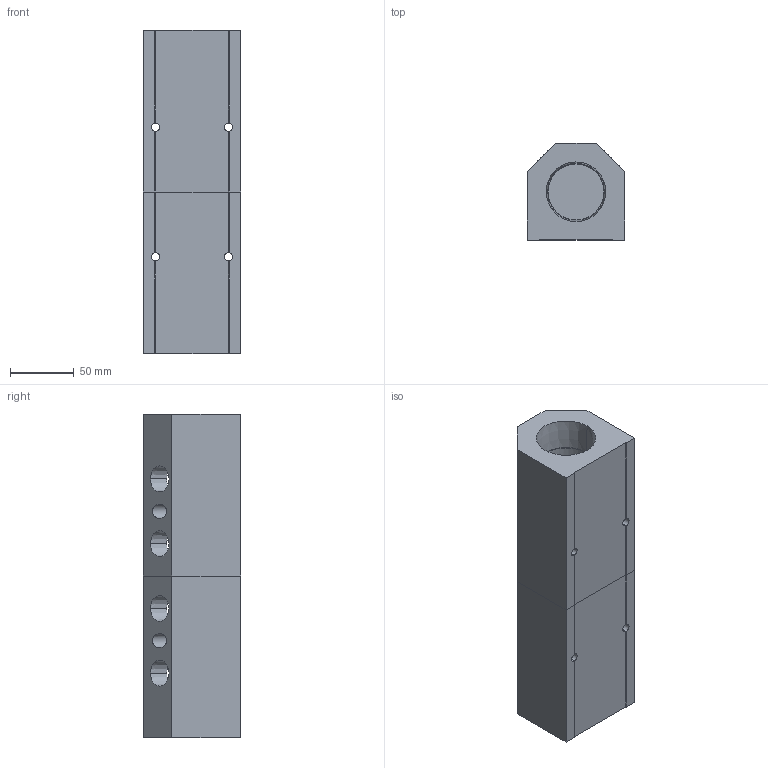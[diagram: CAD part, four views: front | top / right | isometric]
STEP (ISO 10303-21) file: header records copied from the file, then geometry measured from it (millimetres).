
FILE_DESCRIPTION (( 'STEP AP214' ), '1' );
FILE_NAME ('ALM4BCD-N8N24-254RB.step', '2022-02-07T09:39:34', ( '' ), ( '' ), 'SwSTEP 2.0', 'SolidWorks 2020', '' );
FILE_SCHEMA (( 'AUTOMOTIVE_DESIGN' ));
Length unit declared in the file: millimetre
Products named in the file (1): ALM4BCD-N8N24-254RB
Bounding box: 76.2 x 76.2 x 254 mm (x, y, z)
Volume: 879095 mm3; surface area: 137849.2 mm2
Topology: 2 solids, 2 shells, 383 faces, 1030 edges, 684 vertices
Faces by surface type: plane 257, bspline 78, cone 28, cylinder 20
Entity records: 21534 total; most frequent: CARTESIAN_POINT 8856, ORIENTED_EDGE 2060, DIRECTION 1486, EDGE_CURVE 1030, LINE 746, VECTOR 746, VERTEX_POINT 684, EDGE_LOOP 448
